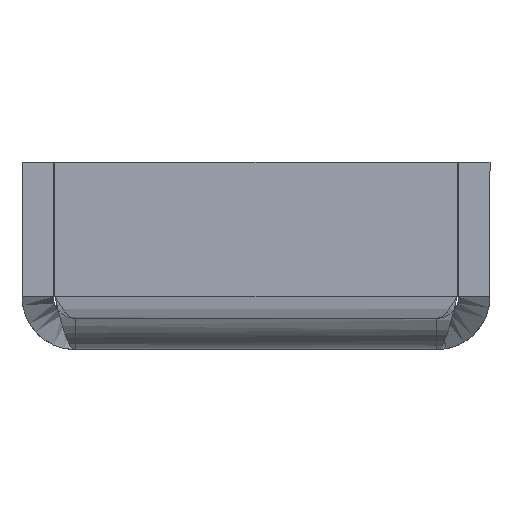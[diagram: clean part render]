
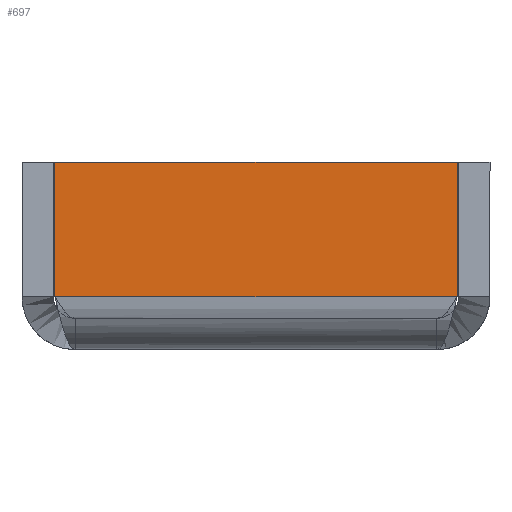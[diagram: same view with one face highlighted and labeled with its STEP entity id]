
A CAD part, left-side view. The second image highlights one B-rep face of the part: STEP entity #697.
In plain terms, the highlighted planar face has unit normal (-1, 0, 0).
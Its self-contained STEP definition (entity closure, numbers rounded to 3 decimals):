
#37 = CARTESIAN_POINT ( 'NONE',  ( -540., -12.9, 1.4 ) ) ;
#52 = LINE ( 'NONE', #729, #887 ) ;
#61 = FACE_OUTER_BOUND ( 'NONE', #298, .T. ) ;
#67 = PLANE ( 'NONE',  #358 ) ;
#155 = CARTESIAN_POINT ( 'NONE',  ( -540., 12.9, 10. ) ) ;
#169 = LINE ( 'NONE', #37, #600 ) ;
#190 = EDGE_CURVE ( 'NONE', #976, #563, #1269, .T. ) ;
#201 = VERTEX_POINT ( 'NONE', #746 ) ;
#265 = VECTOR ( 'NONE', #968, 1000. ) ;
#278 = VERTEX_POINT ( 'NONE', #1430 ) ;
#289 = VECTOR ( 'NONE', #1305, 1000. ) ;
#298 = EDGE_LOOP ( 'NONE', ( #1369, #832, #475, #635 ) ) ;
#358 = AXIS2_PLACEMENT_3D ( 'NONE', #724, #397, #1293 ) ;
#384 = LINE ( 'NONE', #838, #265 ) ;
#397 = DIRECTION ( 'NONE',  ( -1., 0., 0. ) ) ;
#475 = ORIENTED_EDGE ( 'NONE', *, *, #688, .T. ) ;
#563 = VERTEX_POINT ( 'NONE', #1131 ) ;
#600 = VECTOR ( 'NONE', #617, 1000. ) ;
#617 = DIRECTION ( 'NONE',  ( 0., 0., 1. ) ) ;
#631 = CARTESIAN_POINT ( 'NONE',  ( -540., -11.6, 10. ) ) ;
#635 = ORIENTED_EDGE ( 'NONE', *, *, #1005, .T. ) ;
#688 = EDGE_CURVE ( 'NONE', #278, #201, #384, .T. ) ;
#697 = ADVANCED_FACE ( 'NONE', ( #61 ), #67, .T. ) ;
#724 = CARTESIAN_POINT ( 'NONE',  ( -540., 0., 0. ) ) ;
#729 = CARTESIAN_POINT ( 'NONE',  ( -540., 12.9, 1.4 ) ) ;
#746 = CARTESIAN_POINT ( 'NONE',  ( -540., -12.9, 1.4 ) ) ;
#832 = ORIENTED_EDGE ( 'NONE', *, *, #1018, .F. ) ;
#838 = CARTESIAN_POINT ( 'NONE',  ( -540., 0., 1.4 ) ) ;
#887 = VECTOR ( 'NONE', #1157, 1000. ) ;
#968 = DIRECTION ( 'NONE',  ( 0., -1., 0. ) ) ;
#976 = VERTEX_POINT ( 'NONE', #155 ) ;
#1005 = EDGE_CURVE ( 'NONE', #201, #563, #169, .T. ) ;
#1018 = EDGE_CURVE ( 'NONE', #278, #976, #52, .T. ) ;
#1131 = CARTESIAN_POINT ( 'NONE',  ( -540., -12.9, 10. ) ) ;
#1157 = DIRECTION ( 'NONE',  ( 0., 0., 1. ) ) ;
#1269 = LINE ( 'NONE', #631, #289 ) ;
#1293 = DIRECTION ( 'NONE',  ( 0., 0., 1. ) ) ;
#1305 = DIRECTION ( 'NONE',  ( 0., -1., 0. ) ) ;
#1369 = ORIENTED_EDGE ( 'NONE', *, *, #190, .F. ) ;
#1430 = CARTESIAN_POINT ( 'NONE',  ( -540., 12.9, 1.4 ) ) ;
